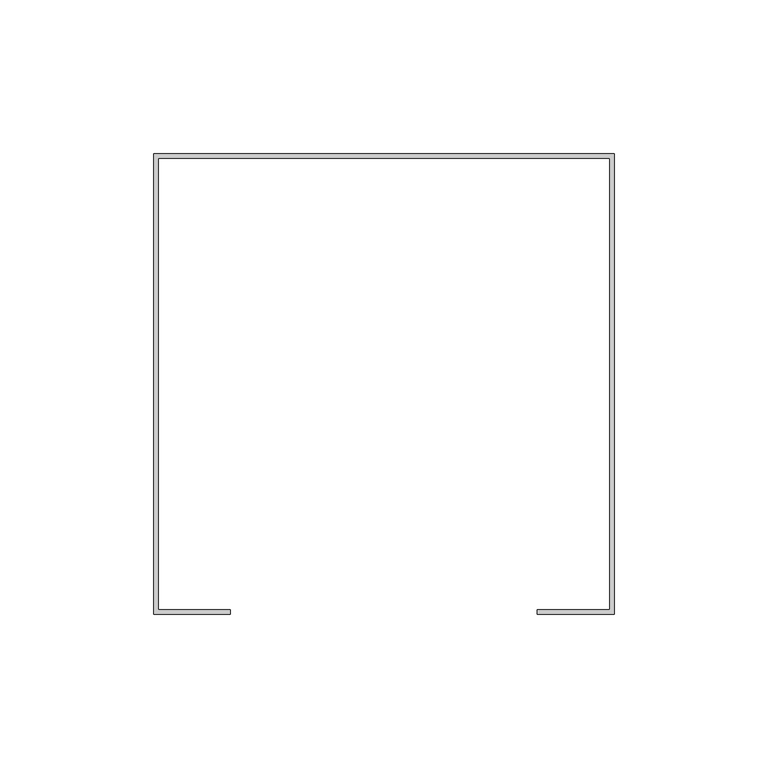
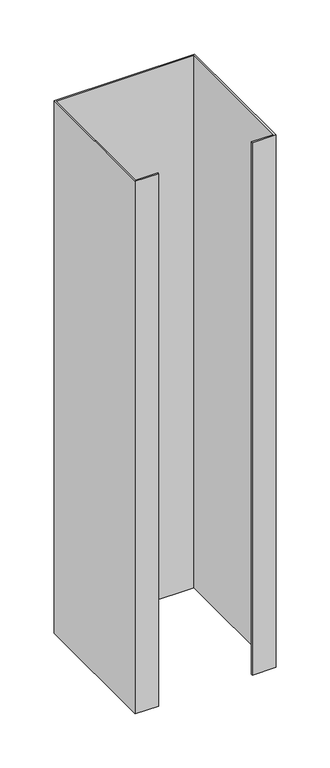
"""IFC4 building model written with IfcOpenShell, lengths in millimetres: flow terminal geometry, Carenagem - Aba Interna : Carenagem 600x150x150mm."""

from ifc_helpers import new_model, si_unit, origin, origin_with_axes, place, context, project, spatial, polyline, outline, extrude, source, transform, mapped, element, save


def flow_terminal_0b78146e(model_context):
    return source(origin(), model_context, "Body", "SweptSolid", [
        extrude(outline(polyline([(198.5, 248.5), (51.5, 248.5), (51.5, 101.5), (75.0, 101.5), (75.0, 100.0), (50.0, 100.0), (50.0, 250.0), (200.0, 250.0), (200.0, 100.0), (175.0, 100.0), (175.0, 101.5), (198.5, 101.5), (198.5, 248.5)])), origin_with_axes(), (0.0, 0.0, 1.0), 600.0),
    ])


if __name__ == "__main__":
    model = new_model("IFC4")
    model_context = context("Model", 3, world=origin())
    ifc_project = project(units=[si_unit("LENGTHUNIT", "METRE", prefix="MILLI")], contexts=[model_context])
    site = spatial("IfcSite", under=ifc_project)
    building = spatial("IfcBuilding", under=site)
    placement = place(None, origin())
    flow_terminal_shape = flow_terminal_0b78146e(model_context)
    element("IfcFlowTerminal", 1, ObjectType="Carenagem - Aba Interna : Carenagem 600x150x150mm", at=placement, inside=building, context=model_context, shape_type="MappedRepresentation", body=[
        mapped(flow_terminal_shape, transform((0.0, 0.0, 0.0), x_axis=(1.0, 0.0, 0.0), y_axis=(0.0, 1.0, 0.0), z_axis=(0.0, 0.0, 1.0))),
    ])
    save(model, "model.ifc")
